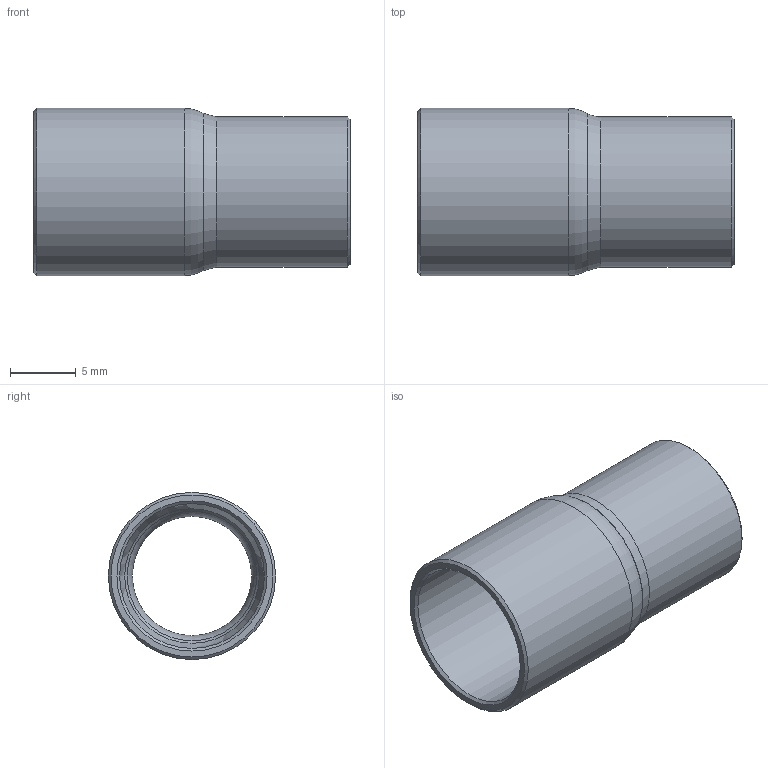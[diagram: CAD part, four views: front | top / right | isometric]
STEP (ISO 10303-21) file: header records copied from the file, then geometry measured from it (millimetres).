
FILE_DESCRIPTION((''),'2;1');
FILE_NAME('G:\SANHA-Ternat\Technik\Management\Bouwmaten + markeringen\z-maattekeningen 3D\29000s\292431238_3d.stp','2017-08-03T15:22:10',('vdvijverd'),(''),'Autodesk Inventor 2009','Autodesk Inventor 2009','');
FILE_SCHEMA(('AUTOMOTIVE_DESIGN { 1 0 10303 214 1 1 1 1 }'));
Length unit declared in the file: millimetre
Products named in the file (1): 292431238_3d
Bounding box: 24 x 12.7 x 12.7 mm (x, y, z)
Volume: 745.1 mm3; surface area: 1748.9 mm2
Topology: 1 solids, 1 shells, 17 faces, 32 edges, 17 vertices
Faces by surface type: cone 6, cylinder 4, bspline 3, plane 2, torus 2
Full cylindrical faces by diameter (mm): 9.645 x1, 11 x1, 11.4 x1, 12.7 x1
Entity records: 494 total; most frequent: CARTESIAN_POINT 184, DIRECTION 64, ORIENTED_EDGE 34, EDGE_LOOP 34, AXIS2_PLACEMENT_3D 32, VERTEX_POINT 17, CIRCLE 17, EDGE_CURVE 17
